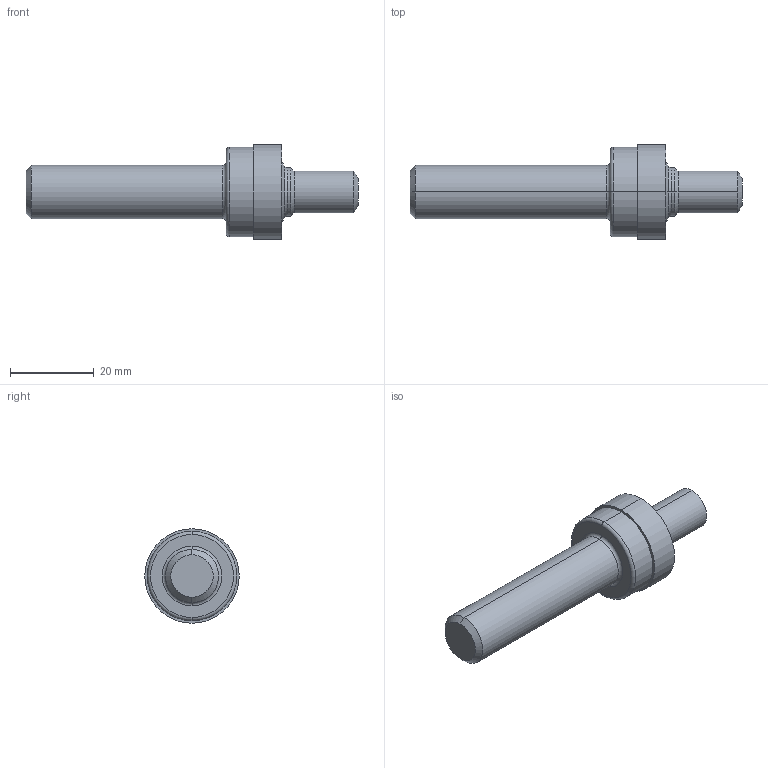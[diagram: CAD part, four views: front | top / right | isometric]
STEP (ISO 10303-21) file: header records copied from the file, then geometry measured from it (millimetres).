
FILE_DESCRIPTION (( 'STEP AP203' ), '1' );
FILE_NAME ('AS5202-04R.STEP', '2024-06-19T18:45:07', ( '' ), ( '' ), 'SwSTEP 2.0', 'SolidWorks 2022', '' );
FILE_SCHEMA (( 'CONFIG_CONTROL_DESIGN' ));
Length unit declared in the file: inch
Products named in the file (1): AS5202-04R
Bounding box: 79.25 x 22.56 x 22.56 mm (x, y, z)
Volume: 12540.5 mm3; surface area: 4072.5 mm2
Topology: 1 solids, 1 shells, 29 faces, 56 edges, 32 vertices
Faces by surface type: cylinder 10, cone 8, torus 6, plane 5
Entity records: 819 total; most frequent: DIRECTION 154, CARTESIAN_POINT 118, ORIENTED_EDGE 112, AXIS2_PLACEMENT_3D 68, EDGE_CURVE 56, CIRCLE 38, EDGE_LOOP 32, VERTEX_POINT 32
